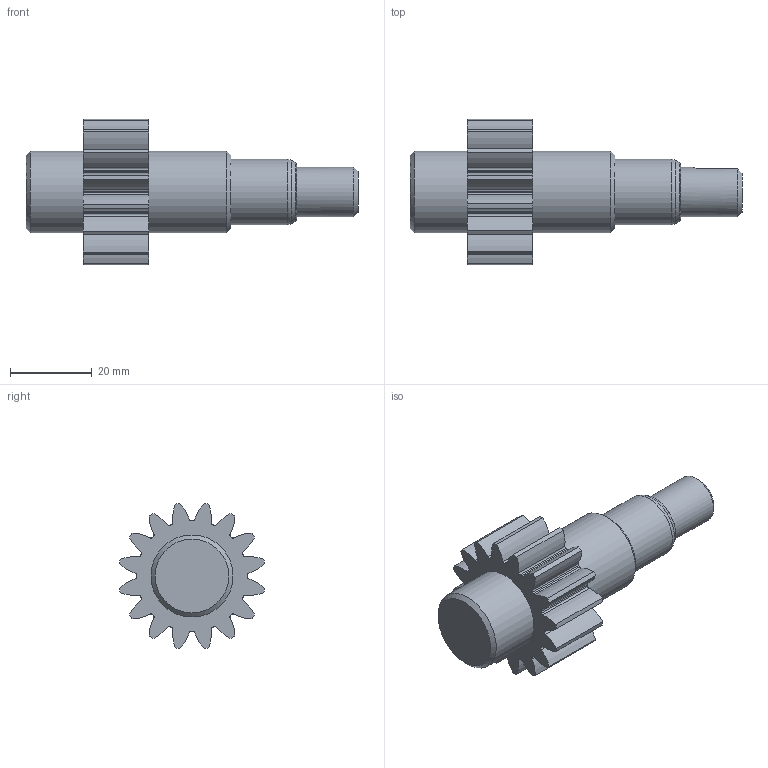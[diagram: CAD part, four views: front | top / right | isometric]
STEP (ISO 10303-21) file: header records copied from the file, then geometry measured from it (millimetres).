
FILE_DESCRIPTION(/* description */ (''),/* implementation_level */ '2;1');
FILE_NAME(/* name */ '',/* time_stamp */ '2026-08-26T18:22:29+09:00',/* author */ ('jhkim'),/* organization */ (''),/* preprocessor_version */ 'ST-DEVELOPER v20.1',/* originating_system */ 'Autodesk Inventor 2027',/* authorisation */ '');
FILE_SCHEMA (('AUTOMOTIVE_DESIGN { 1 0 10303 214 3 1 1 }'));
Length unit declared in the file: millimetre
Products named in the file (1): 구동기어
Bounding box: 81 x 35.51 x 35.51 mm (x, y, z)
Volume: 28138.7 mm3; surface area: 8042.8 mm2
Topology: 1 solids, 1 shells, 116 faces, 331 edges, 221 vertices
Faces by surface type: cylinder 101, plane 9, cone 4, torus 2
Full cylindrical faces by diameter (mm): 12 x1, 16 x1, 20 x2
Entity records: 3973 total; most frequent: DIRECTION 776, CARTESIAN_POINT 691, ORIENTED_EDGE 662, AXIS2_PLACEMENT_3D 332, EDGE_CURVE 331, VERTEX_POINT 221, CIRCLE 215, EDGE_LOOP 120
